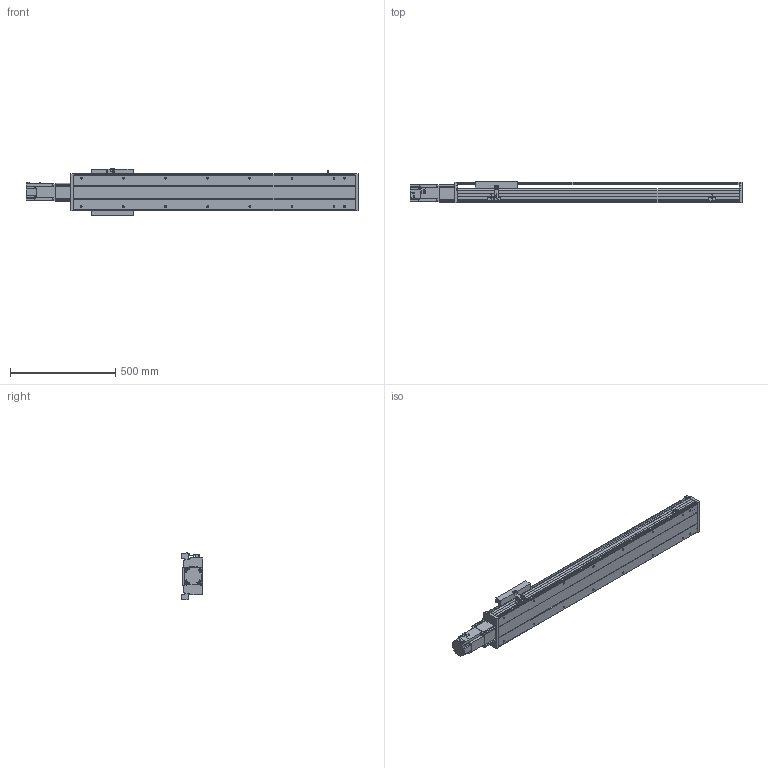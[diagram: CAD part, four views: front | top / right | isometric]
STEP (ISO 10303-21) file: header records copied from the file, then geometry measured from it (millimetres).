
FILE_DESCRIPTION( ( 'STEP AP214' ), '1' );
FILE_NAME( 'x:/temp/worker_27/temp/exporttempdir_6708_412_ElMEn/format_0/PSS200-L10-S1000-BC-T75-C1-N(0).stp', '2022-06-06T02:37:00', ( 'License CC BY-ND 4.0' ), ( 'CADENAS' ), ' ', 'PARTsolutions', ' ' );
FILE_SCHEMA( ( 'AUTOMOTIVE_DESIGN { 1 0 10303 214 1 1 1 1 }' ) );
Length unit declared in the file: millimetre
Products named in the file (8): PSS200-L10-S1000-BC-T75-C1-N(0); _PSS200-S1000-BC-C1-N_body; _PSS200-N_Q; _PSS200-BC-C1-N_sl; _PSS200-N_sensor; _PSS200BC-N_h; _T75-p1; _PSS200-S1000-BC-N_S
Assembly tree (9 placements, depth 2):
  PSS200-L10-S1000-BC-T75-C1-N(0)
    _PSS200-S1000-BC-C1-N_body
    _PSS200-N_Q
    _PSS200-BC-C1-N_sl
    _PSS200-N_sensor  x3
    _PSS200BC-N_h
    _T75-p1
    _PSS200-S1000-BC-N_S
Bounding box: 1576.3 x 101.5 x 223.86 mm (x, y, z)
Volume: 8599029.4 mm3; surface area: 2202400 mm2
Topology: 9 solids, 9 shells, 585 faces, 1567 edges, 1040 vertices
Faces by surface type: plane 439, cylinder 122, cone 24
Full cylindrical faces by diameter (mm): 4 x2, 4.5 x4, 6 x11, 6.647 x20, 8 x8, 10 x6, 25 x1, 67 x1, 70 x1
Entity records: 20511 total; most frequent: CARTESIAN_POINT 2856, DIRECTION 2681, ORIENTED_EDGE 2654, EDGE_CURVE 1327, LINE 1051, VECTOR 1051, VERTEX_POINT 926, AXIS2_PLACEMENT_3D 815
